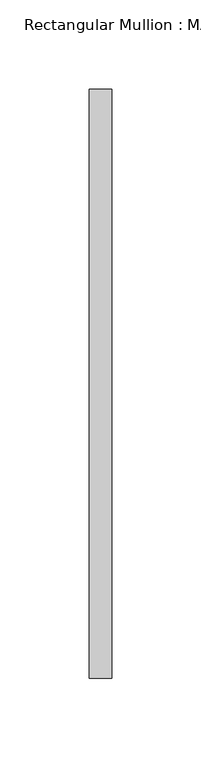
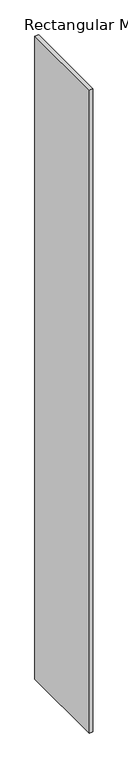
"""IFC4 building model written with IfcOpenShell, lengths in millimetres: member geometry, Rectangular Mullion : MARBLE PORTAL."""

from ifc_helpers import new_model, si_unit, frame, origin, place, context, project, spatial, polyline, outline, extrude, source, transform, mapped, element, save


def rectangular_mullion_marble_portal_c2e89315(model_context):
    return source(origin(), model_context, "Body", "SweptSolid", [
        extrude(outline(polyline([(6.35, 190.5), (6.35, -139.7), (-6.35, -139.7), (-6.35, 190.5), (6.35, 190.5)])), frame((0.0, 0.0, -2381.25), z_axis=(0.0, 0.0, 1.0), x_axis=(1.0, 0.0, 0.0)), (0.0, 0.0, 1.0), 2381.25),
    ])


if __name__ == "__main__":
    model = new_model("IFC4")
    model_context = context("Model", 3, world=origin())
    ifc_project = project(units=[si_unit("LENGTHUNIT", "METRE", prefix="MILLI")], contexts=[model_context])
    site = spatial("IfcSite", under=ifc_project)
    building = spatial("IfcBuilding", under=site)
    placement = place(None, origin())
    rectangular_mullion_marble_portal_shape = rectangular_mullion_marble_portal_c2e89315(model_context)
    element("IfcMember", 1, ObjectType="Rectangular Mullion : MARBLE PORTAL", at=placement, inside=building, context=model_context, shape_type="MappedRepresentation", body=[
        mapped(rectangular_mullion_marble_portal_shape, transform((0.0, 0.0, 0.0), x_axis=(1.0, 0.0, 0.0), y_axis=(0.0, 1.0, 0.0), z_axis=(0.0, 0.0, 1.0))),
    ])
    save(model, "model.ifc")
